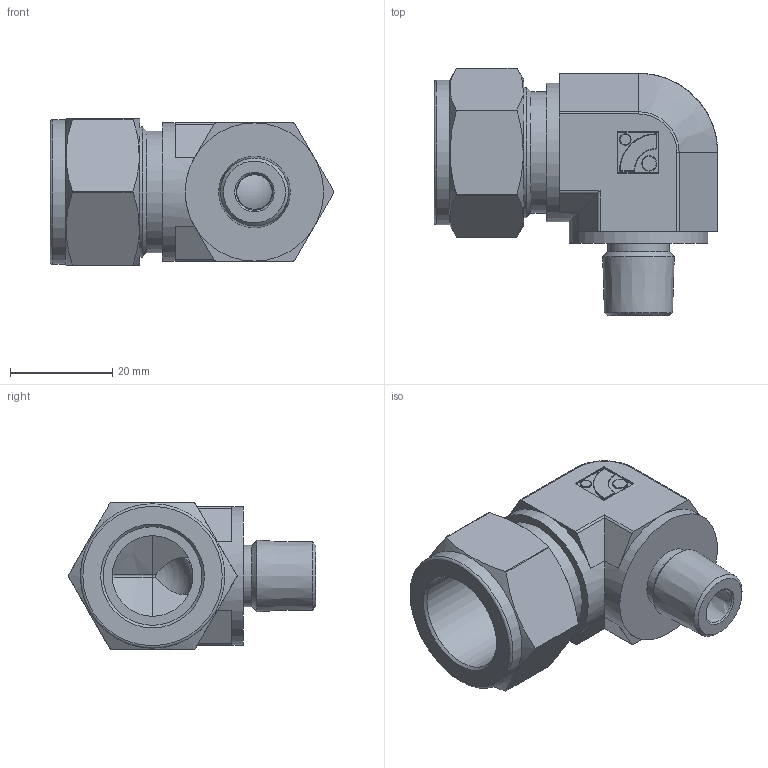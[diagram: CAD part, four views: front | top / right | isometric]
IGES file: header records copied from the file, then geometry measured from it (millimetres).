
Global section: file name: No Iges File Name specified; native system: Autodesk Inventor 2012; preprocessor: AutoDesk Inventor Iges Exporter R2012; author: 硅己绕,, ; organization: 11; date: 20150703.114332; units: millimetre
Bounding box: 55.41 x 48.4 x 28.6 mm (x, y, z)
Volume: 27353.2 mm3; surface area: 9864.9 mm2
Topology: 1 solids, 1 shells, 131 faces, 290 edges, 168 vertices
Faces by surface type: plane 42, cylinder 35, revolution 30, torus 12, cone 8, sphere 4
Full cylindrical faces by diameter (mm): 2.16 x1, 2.88 x1, 12 x1, 23.7 x1, 25.4 x1, 27 x2, 28.2 x1
